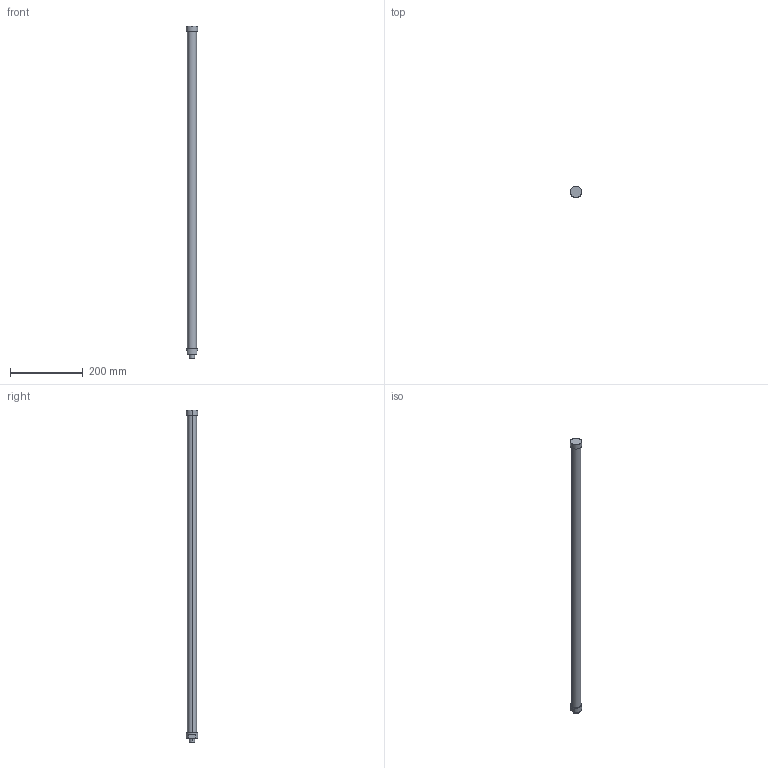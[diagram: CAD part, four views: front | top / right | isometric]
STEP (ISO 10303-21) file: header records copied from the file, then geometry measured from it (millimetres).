
FILE_DESCRIPTION(('STEP AP214'),'1');
FILE_NAME('C:/Users/Autocad/Desktop/L914-C690S1-FN.stp','2014-02-10T11:04:54',(' '),(' '),'Spatial InterOp 3D',' ',' ');
FILE_SCHEMA(('automotive_design'));
Length unit declared in the file: metre
Products named in the file (2): 1; 2
Bounding box: 31 x 31 x 914 mm (x, y, z)
Volume: 452237.8 mm3; surface area: 74610.7 mm2
Topology: 1 solids, 4 shells, 23 faces, 54 edges, 40 vertices
Faces by surface type: cylinder 12, plane 11
Entity records: 916 total; most frequent: DIRECTION 136, CARTESIAN_POINT 119, ORIENTED_EDGE 96, AXIS2_PLACEMENT_3D 57, EDGE_CURVE 54, VERTEX_POINT 40, CIRCLE 32, EDGE_LOOP 28
